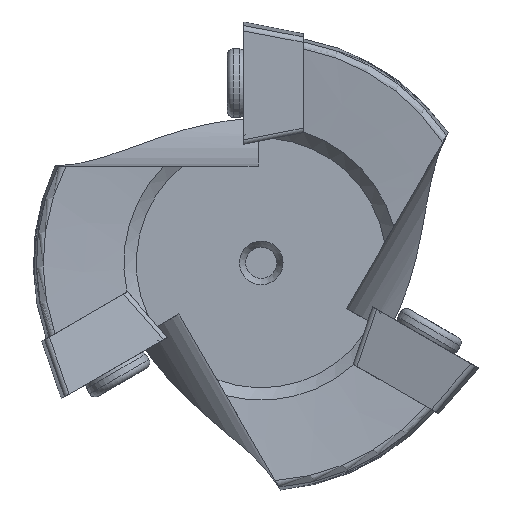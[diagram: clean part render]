
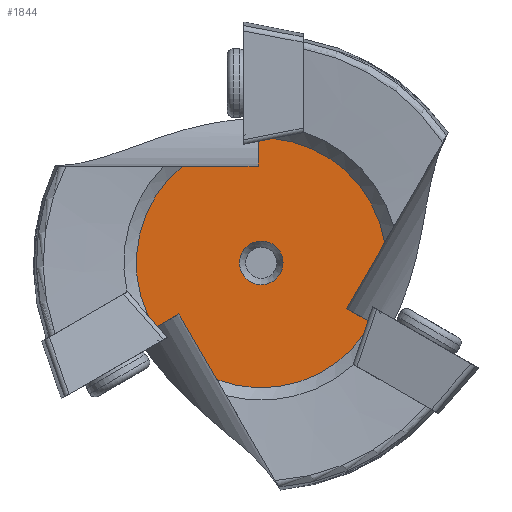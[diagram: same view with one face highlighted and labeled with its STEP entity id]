
A CAD part, left-side view. The second image highlights one B-rep face of the part: STEP entity #1844.
In plain terms, the highlighted planar face has unit normal (-1, 0, 0).
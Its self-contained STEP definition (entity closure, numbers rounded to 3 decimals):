
#88=FACE_BOUND('',#308,.T.);
#153=PLANE('',#2053);
#202=FACE_OUTER_BOUND('',#307,.T.);
#307=EDGE_LOOP('',(#1285,#1286,#1287,#1288,#1289,#1290,#1291,#1292,#1293,
#1294,#1295,#1296));
#308=EDGE_LOOP('',(#1297,#1298));
#483=LINE('',#2895,#585);
#488=LINE('',#2917,#590);
#492=LINE('',#2937,#594);
#493=LINE('',#2940,#595);
#494=LINE('',#2943,#596);
#495=LINE('',#2945,#597);
#496=LINE('',#2949,#598);
#497=LINE('',#2951,#599);
#498=LINE('',#2953,#600);
#585=VECTOR('',#2258,10.);
#590=VECTOR('',#2273,10.);
#594=VECTOR('',#2289,10.);
#595=VECTOR('',#2292,10.);
#596=VECTOR('',#2295,10.);
#597=VECTOR('',#2296,10.);
#598=VECTOR('',#2299,10.);
#599=VECTOR('',#2300,10.);
#600=VECTOR('',#2301,10.);
#690=CIRCLE('',#2054,10.);
#691=CIRCLE('',#2055,10.);
#692=CIRCLE('',#2056,10.);
#693=CIRCLE('',#2057,1.75);
#694=CIRCLE('',#2058,1.75);
#775=VERTEX_POINT('',#2885);
#778=VERTEX_POINT('',#2893);
#784=VERTEX_POINT('',#2907);
#787=VERTEX_POINT('',#2915);
#794=VERTEX_POINT('',#2935);
#795=VERTEX_POINT('',#2939);
#796=VERTEX_POINT('',#2942);
#797=VERTEX_POINT('',#2944);
#798=VERTEX_POINT('',#2946);
#799=VERTEX_POINT('',#2948);
#800=VERTEX_POINT('',#2950);
#801=VERTEX_POINT('',#2952);
#802=VERTEX_POINT('',#2955);
#803=VERTEX_POINT('',#2956);
#975=EDGE_CURVE('',#775,#778,#483,.T.);
#984=EDGE_CURVE('',#784,#787,#488,.T.);
#993=EDGE_CURVE('',#778,#794,#492,.T.);
#994=EDGE_CURVE('',#794,#795,#493,.T.);
#995=EDGE_CURVE('',#784,#795,#690,.T.);
#996=EDGE_CURVE('',#787,#796,#494,.T.);
#997=EDGE_CURVE('',#796,#797,#495,.T.);
#998=EDGE_CURVE('',#798,#797,#691,.T.);
#999=EDGE_CURVE('',#798,#799,#496,.T.);
#1000=EDGE_CURVE('',#799,#800,#497,.T.);
#1001=EDGE_CURVE('',#800,#801,#498,.T.);
#1002=EDGE_CURVE('',#775,#801,#692,.T.);
#1003=EDGE_CURVE('',#802,#803,#693,.T.);
#1004=EDGE_CURVE('',#803,#802,#694,.T.);
#1285=ORIENTED_EDGE('',*,*,#975,.T.);
#1286=ORIENTED_EDGE('',*,*,#993,.T.);
#1287=ORIENTED_EDGE('',*,*,#994,.T.);
#1288=ORIENTED_EDGE('',*,*,#995,.F.);
#1289=ORIENTED_EDGE('',*,*,#984,.T.);
#1290=ORIENTED_EDGE('',*,*,#996,.T.);
#1291=ORIENTED_EDGE('',*,*,#997,.T.);
#1292=ORIENTED_EDGE('',*,*,#998,.F.);
#1293=ORIENTED_EDGE('',*,*,#999,.T.);
#1294=ORIENTED_EDGE('',*,*,#1000,.T.);
#1295=ORIENTED_EDGE('',*,*,#1001,.T.);
#1296=ORIENTED_EDGE('',*,*,#1002,.F.);
#1297=ORIENTED_EDGE('',*,*,#1003,.T.);
#1298=ORIENTED_EDGE('',*,*,#1004,.T.);
#1844=ADVANCED_FACE('',(#202,#88),#153,.T.);
#2053=AXIS2_PLACEMENT_3D('',#2938,#2290,#2291);
#2054=AXIS2_PLACEMENT_3D('',#2941,#2293,#2294);
#2055=AXIS2_PLACEMENT_3D('',#2947,#2297,#2298);
#2056=AXIS2_PLACEMENT_3D('',#2954,#2302,#2303);
#2057=AXIS2_PLACEMENT_3D('',#2957,#2304,#2305);
#2058=AXIS2_PLACEMENT_3D('',#2958,#2306,#2307);
#2258=DIRECTION('',(0.,-0.656,-0.755));
#2273=DIRECTION('',(0.,-0.326,0.946));
#2289=DIRECTION('',(0.,-0.866,0.5));
#2290=DIRECTION('center_axis',(-1.,0.,0.));
#2291=DIRECTION('ref_axis',(0.,0.,1.));
#2292=DIRECTION('',(0.,-0.5,-0.866));
#2293=DIRECTION('center_axis',(1.,0.,0.));
#2294=DIRECTION('ref_axis',(0.,0.,-1.));
#2295=DIRECTION('',(0.,0.866,0.5));
#2296=DIRECTION('',(0.,-0.5,0.866));
#2297=DIRECTION('center_axis',(1.,0.,0.));
#2298=DIRECTION('ref_axis',(0.,0.,-1.));
#2299=DIRECTION('',(0.,0.982,-0.191));
#2300=DIRECTION('',(0.,0.,-1.));
#2301=DIRECTION('',(0.,1.,0.));
#2302=DIRECTION('center_axis',(1.,0.,0.));
#2303=DIRECTION('ref_axis',(0.,0.,-1.));
#2304=DIRECTION('center_axis',(1.,0.,0.));
#2305=DIRECTION('ref_axis',(0.,0.,-1.));
#2306=DIRECTION('center_axis',(1.,0.,0.));
#2307=DIRECTION('ref_axis',(0.,0.,-1.));
#2885=CARTESIAN_POINT('',(-87.257,9.061,-4.23));
#2893=CARTESIAN_POINT('',(-87.257,8.314,-5.089));
#2895=CARTESIAN_POINT('',(-87.257,5.777,-8.008));
#2907=CARTESIAN_POINT('',(-87.257,-8.194,-5.732));
#2915=CARTESIAN_POINT('',(-87.257,-8.564,-4.656));
#2917=CARTESIAN_POINT('',(-87.257,-7.056,-9.037));
#2935=CARTESIAN_POINT('',(-87.257,6.587,-4.092));
#2937=CARTESIAN_POINT('',(-87.257,7.669,-4.717));
#2938=CARTESIAN_POINT('Origin',(-87.257,0.,-10.));
#2939=CARTESIAN_POINT('',(-87.257,3.552,-9.348));
#2940=CARTESIAN_POINT('',(-87.257,-0.016,-15.527));
#2941=CARTESIAN_POINT('Origin',(-87.257,0.,0.));
#2942=CARTESIAN_POINT('',(-87.257,-6.837,-3.658));
#2943=CARTESIAN_POINT('',(-87.257,-7.919,-4.283));
#2944=CARTESIAN_POINT('',(-87.257,-9.872,1.598));
#2945=CARTESIAN_POINT('',(-87.257,-9.109,0.277));
#2946=CARTESIAN_POINT('',(-87.257,-0.868,9.962));
#2947=CARTESIAN_POINT('Origin',(-87.257,0.,0.));
#2948=CARTESIAN_POINT('',(-87.257,0.25,9.745));
#2949=CARTESIAN_POINT('',(-87.257,1.279,9.545));
#2950=CARTESIAN_POINT('',(-87.257,0.25,7.75));
#2951=CARTESIAN_POINT('',(-87.257,0.25,1.5));
#2952=CARTESIAN_POINT('',(-87.257,6.32,7.75));
#2953=CARTESIAN_POINT('',(-87.257,9.125,7.75));
#2954=CARTESIAN_POINT('Origin',(-87.257,0.,0.));
#2955=CARTESIAN_POINT('',(-87.257,0.,-1.75));
#2956=CARTESIAN_POINT('',(-87.257,0.,1.75));
#2957=CARTESIAN_POINT('Origin',(-87.257,0.,0.));
#2958=CARTESIAN_POINT('Origin',(-87.257,0.,0.));
